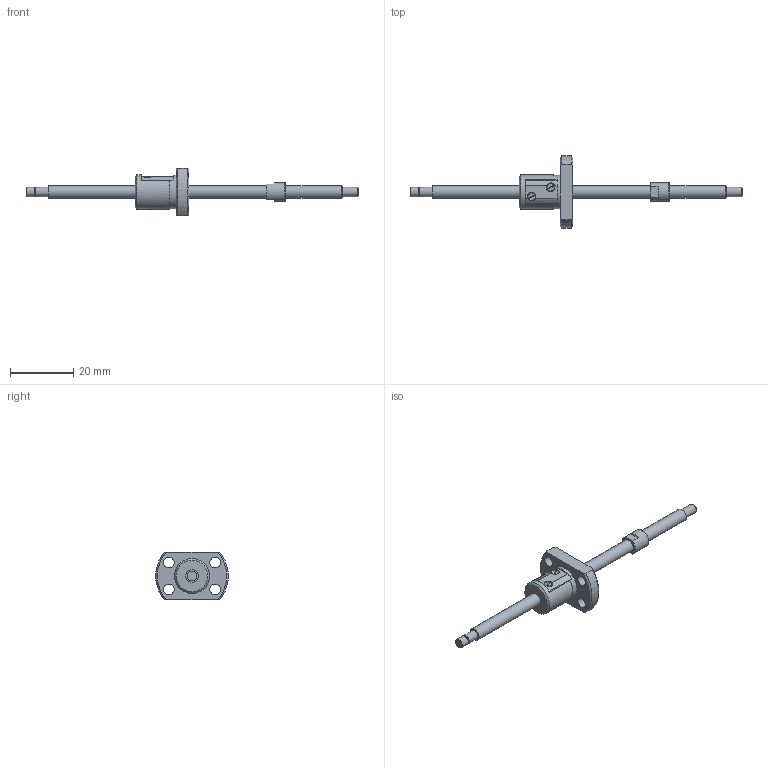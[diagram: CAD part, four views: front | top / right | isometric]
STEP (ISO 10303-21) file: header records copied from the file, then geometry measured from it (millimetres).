
FILE_DESCRIPTION(/* description */ ('STEP AP214'),/* implementation_level */ '2;1');
FILE_NAME(/* name */ 'PSRT0401-65R105C5B0X(B27.5)',/* time_stamp */ '2026-08-06T16:10:26+02:00',/* author */ ('License CC BY-ND 4.0'),/* organization */ ('CADENAS'),/* preprocessor_version */ 'ST-DEVELOPER v20',/* originating_system */ 'PARTsolutions',/* authorisation */ ' ');
FILE_SCHEMA (('AUTOMOTIVE_DESIGN {1 0 10303 214 3 1 1}'));
Length unit declared in the file: millimetre
Products named in the file (3): PSRT0401-65R105C5B0X(B27.5); PSRT0401B105_shaft; PSR0401_nut
Assembly tree (2 placements, depth 2):
  PSRT0401-65R105C5B0X(B27.5)
    PSRT0401B105_shaft
    PSR0401_nut
Bounding box: 105 x 22.93 x 15 mm (x, y, z)
Volume: 3421.1 mm3; surface area: 3081 mm2
Topology: 2 solids, 2 shells, 72 faces, 172 edges, 113 vertices
Faces by surface type: plane 35, cylinder 28, cone 8, torus 1
Full cylindrical faces by diameter (mm): 2.7 x3, 3 x3, 3.4 x4, 4 x3, 6 x1, 10.6 x1, 11 x1
Entity records: 2067 total; most frequent: CARTESIAN_POINT 365, DIRECTION 356, ORIENTED_EDGE 292, EDGE_CURVE 146, AXIS2_PLACEMENT_3D 145, EDGE_LOOP 112, FACE_BOUND 112, VERTEX_POINT 108
